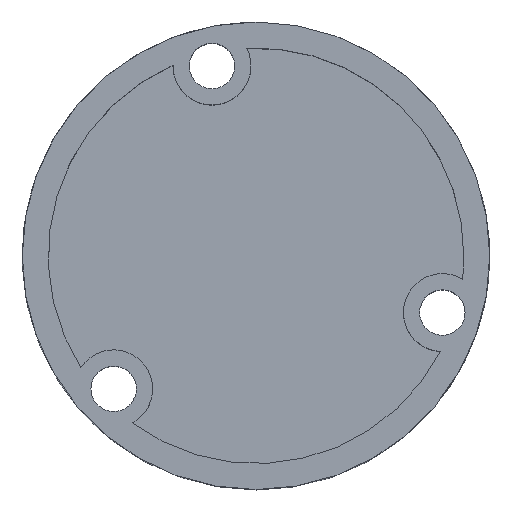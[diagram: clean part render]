
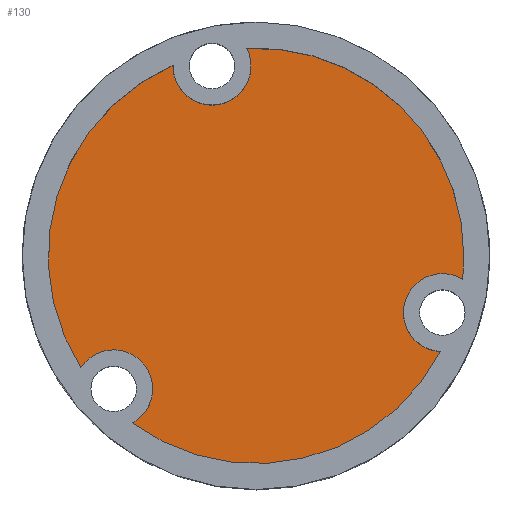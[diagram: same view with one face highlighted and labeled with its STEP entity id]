
A CAD part, top view. The second image highlights one B-rep face of the part: STEP entity #130.
In plain terms, the highlighted planar face has unit normal (0, 0, 1).
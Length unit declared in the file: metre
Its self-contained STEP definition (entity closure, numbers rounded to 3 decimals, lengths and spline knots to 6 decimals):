
#4 = AXIS2_PLACEMENT_3D ( 'NONE', #221, #387, #238 ) ;
#15 = CIRCLE ( 'NONE', #368, 0.003 ) ;
#18 = ORIENTED_EDGE ( 'NONE', *, *, #97, .T. ) ;
#20 = DIRECTION ( 'NONE',  ( 0., 0., -1. ) ) ;
#26 = VERTEX_POINT ( 'NONE', #449 ) ;
#34 = CIRCLE ( 'NONE', #182, 0.003 ) ;
#94 = ORIENTED_EDGE ( 'NONE', *, *, #1184, .T. ) ;
#97 = EDGE_CURVE ( 'NONE', #26, #1230, #15, .T. ) ;
#108 = DIRECTION ( 'NONE',  ( 1., 0., 0. ) ) ;
#130 = ADVANCED_FACE ( 'NONE', ( #1794 ), #1355, .T. ) ;
#172 = AXIS2_PLACEMENT_3D ( 'NONE', #1302, #1710, #625 ) ;
#182 = AXIS2_PLACEMENT_3D ( 'NONE', #1120, #1669, #708 ) ;
#183 = ORIENTED_EDGE ( 'NONE', *, *, #1501, .F. ) ;
#195 = CARTESIAN_POINT ( 'NONE',  ( -0.006388, 0.014669, -0.0105 ) ) ;
#212 = CIRCLE ( 'NONE', #320, 0.003 ) ;
#221 = CARTESIAN_POINT ( 'NONE',  ( -0.003389, 0.014612, -0.0105 ) ) ;
#225 = CARTESIAN_POINT ( 'NONE',  ( -0.016192, -0.016192, -0.0105 ) ) ;
#238 = DIRECTION ( 'NONE',  ( 1., 0., 0. ) ) ;
#286 = CIRCLE ( 'NONE', #4, 0.003 ) ;
#301 = CARTESIAN_POINT ( 'NONE',  ( 0., 0., -0.0105 ) ) ;
#309 = AXIS2_PLACEMENT_3D ( 'NONE', #1693, #434, #1413 ) ;
#320 = AXIS2_PLACEMENT_3D ( 'NONE', #678, #1799, #108 ) ;
#338 = CARTESIAN_POINT ( 'NONE',  ( -0.013482, -0.008616, -0.0105 ) ) ;
#368 = AXIS2_PLACEMENT_3D ( 'NONE', #515, #932, #819 ) ;
#387 = DIRECTION ( 'NONE',  ( 0., 0., -1. ) ) ;
#434 = DIRECTION ( 'NONE',  ( 0., 0., -1. ) ) ;
#443 = AXIS2_PLACEMENT_3D ( 'NONE', #1171, #742, #751 ) ;
#448 = DIRECTION ( 'NONE',  ( 1., 0., 0. ) ) ;
#449 = CARTESIAN_POINT ( 'NONE',  ( -0.006389, 0.014612, -0.0105 ) ) ;
#463 = CARTESIAN_POINT ( 'NONE',  ( -0.003389, 0.014612, -0.0105 ) ) ;
#466 = EDGE_CURVE ( 'NONE', #1183, #1121, #34, .T. ) ;
#476 = CARTESIAN_POINT ( 'NONE',  ( 0.016, 0., -0.0105 ) ) ;
#479 = VERTEX_POINT ( 'NONE', #1252 ) ;
#486 = CIRCLE ( 'NONE', #1283, 0.003 ) ;
#496 = CARTESIAN_POINT ( 'NONE',  ( 0., 0., -0.0105 ) ) ;
#515 = CARTESIAN_POINT ( 'NONE',  ( -0.003389, 0.014612, -0.0105 ) ) ;
#519 = DIRECTION ( 'NONE',  ( 0., 0., 1. ) ) ;
#555 = EDGE_CURVE ( 'NONE', #1219, #1230, #801, .T. ) ;
#580 = ORIENTED_EDGE ( 'NONE', *, *, #1689, .F. ) ;
#598 = CARTESIAN_POINT ( 'NONE',  ( 0.015898, -0.001802, -0.0105 ) ) ;
#625 = DIRECTION ( 'NONE',  ( 1., 0., 0. ) ) ;
#643 = DIRECTION ( 'NONE',  ( 0., 0., -1. ) ) ;
#678 = CARTESIAN_POINT ( 'NONE',  ( -0.01096, -0.010241, -0.0105 ) ) ;
#693 = EDGE_CURVE ( 'NONE', #1367, #479, #212, .T. ) ;
#708 = DIRECTION ( 'NONE',  ( 1., 0., 0. ) ) ;
#742 = DIRECTION ( 'NONE',  ( 0., 0., -1. ) ) ;
#751 = DIRECTION ( 'NONE',  ( 1., 0., 0. ) ) ;
#785 = CARTESIAN_POINT ( 'NONE',  ( -0.00796, -0.010241, -0.0105 ) ) ;
#801 = CIRCLE ( 'NONE', #1053, 0.016 ) ;
#819 = DIRECTION ( 'NONE',  ( 1., 0., 0. ) ) ;
#925 = DIRECTION ( 'NONE',  ( 1., 0., 0. ) ) ;
#932 = DIRECTION ( 'NONE',  ( 0., 0., -1. ) ) ;
#953 = ORIENTED_EDGE ( 'NONE', *, *, #693, .T. ) ;
#1001 = EDGE_CURVE ( 'NONE', #1022, #26, #286, .T. ) ;
#1007 = CIRCLE ( 'NONE', #309, 0.016 ) ;
#1022 = VERTEX_POINT ( 'NONE', #1227 ) ;
#1030 = CIRCLE ( 'NONE', #443, 0.016 ) ;
#1037 = EDGE_LOOP ( 'NONE', ( #1392, #1133, #580, #183, #94, #1765, #18, #1516, #1066, #953 ) ) ;
#1044 = DIRECTION ( 'NONE',  ( 0., 0., -1. ) ) ;
#1053 = AXIS2_PLACEMENT_3D ( 'NONE', #496, #643, #925 ) ;
#1064 = AXIS2_PLACEMENT_3D ( 'NONE', #301, #20, #448 ) ;
#1066 = ORIENTED_EDGE ( 'NONE', *, *, #1101, .T. ) ;
#1085 = DIRECTION ( 'NONE',  ( 1., 0., 0. ) ) ;
#1101 = EDGE_CURVE ( 'NONE', #1219, #1367, #1645, .T. ) ;
#1120 = CARTESIAN_POINT ( 'NONE',  ( 0.014349, -0.004371, -0.0105 ) ) ;
#1121 = VERTEX_POINT ( 'NONE', #598 ) ;
#1133 = ORIENTED_EDGE ( 'NONE', *, *, #466, .T. ) ;
#1159 = VERTEX_POINT ( 'NONE', #1176 ) ;
#1171 = CARTESIAN_POINT ( 'NONE',  ( 0., 0., -0.0105 ) ) ;
#1176 = CARTESIAN_POINT ( 'NONE',  ( -0.000721, 0.015984, -0.0105 ) ) ;
#1183 = VERTEX_POINT ( 'NONE', #1672 ) ;
#1184 = EDGE_CURVE ( 'NONE', #1159, #1022, #486, .T. ) ;
#1219 = VERTEX_POINT ( 'NONE', #338 ) ;
#1227 = CARTESIAN_POINT ( 'NONE',  ( -0.000389, 0.014612, -0.0105 ) ) ;
#1230 = VERTEX_POINT ( 'NONE', #195 ) ;
#1252 = CARTESIAN_POINT ( 'NONE',  ( -0.00951, -0.012867, -0.0105 ) ) ;
#1283 = AXIS2_PLACEMENT_3D ( 'NONE', #463, #1044, #1736 ) ;
#1302 = CARTESIAN_POINT ( 'NONE',  ( -0.01096, -0.010241, -0.0105 ) ) ;
#1355 = PLANE ( 'NONE',  #1433 ) ;
#1367 = VERTEX_POINT ( 'NONE', #785 ) ;
#1392 = ORIENTED_EDGE ( 'NONE', *, *, #1648, .F. ) ;
#1413 = DIRECTION ( 'NONE',  ( 1., 0., 0. ) ) ;
#1433 = AXIS2_PLACEMENT_3D ( 'NONE', #225, #519, #1085 ) ;
#1501 = EDGE_CURVE ( 'NONE', #1159, #1806, #1007, .T. ) ;
#1516 = ORIENTED_EDGE ( 'NONE', *, *, #555, .F. ) ;
#1645 = CIRCLE ( 'NONE', #172, 0.003 ) ;
#1648 = EDGE_CURVE ( 'NONE', #1183, #479, #1725, .T. ) ;
#1669 = DIRECTION ( 'NONE',  ( 0., 0., -1. ) ) ;
#1672 = CARTESIAN_POINT ( 'NONE',  ( 0.014203, -0.007368, -0.0105 ) ) ;
#1689 = EDGE_CURVE ( 'NONE', #1806, #1121, #1030, .T. ) ;
#1693 = CARTESIAN_POINT ( 'NONE',  ( 0., 0., -0.0105 ) ) ;
#1710 = DIRECTION ( 'NONE',  ( 0., 0., -1. ) ) ;
#1725 = CIRCLE ( 'NONE', #1064, 0.016 ) ;
#1736 = DIRECTION ( 'NONE',  ( 1., 0., 0. ) ) ;
#1765 = ORIENTED_EDGE ( 'NONE', *, *, #1001, .T. ) ;
#1794 = FACE_OUTER_BOUND ( 'NONE', #1037, .T. ) ;
#1799 = DIRECTION ( 'NONE',  ( 0., 0., -1. ) ) ;
#1806 = VERTEX_POINT ( 'NONE', #476 ) ;
